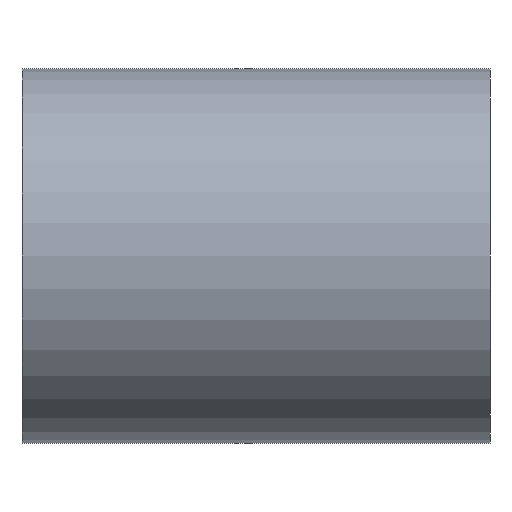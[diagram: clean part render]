
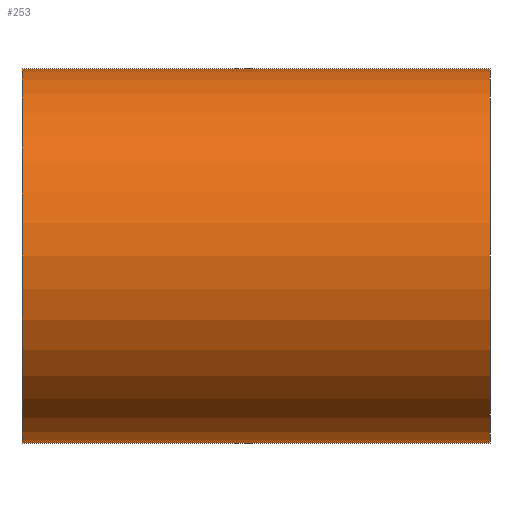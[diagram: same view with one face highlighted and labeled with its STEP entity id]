
A CAD part, front view. The second image highlights one B-rep face of the part: STEP entity #253.
In plain terms, the highlighted cylindrical face has radius 8 mm (diameter 16 mm), a partial arc.
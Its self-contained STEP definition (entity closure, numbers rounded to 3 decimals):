
#6 = VERTEX_POINT ( 'NONE', #204 ) ;
#18 = VERTEX_POINT ( 'NONE', #232 ) ;
#50 = FACE_OUTER_BOUND ( 'NONE', #561, .T. ) ;
#97 = VERTEX_POINT ( 'NONE', #376 ) ;
#113 = VECTOR ( 'NONE', #857, 1000. ) ;
#132 = CARTESIAN_POINT ( 'NONE',  ( 0., 0., 8. ) ) ;
#140 = CARTESIAN_POINT ( 'NONE',  ( -10., 0., 0. ) ) ;
#186 = CIRCLE ( 'NONE', #345, 8. ) ;
#192 = CYLINDRICAL_SURFACE ( 'NONE', #750, 8. ) ;
#194 = EDGE_CURVE ( 'NONE', #18, #888, #378, .T. ) ;
#204 = CARTESIAN_POINT ( 'NONE',  ( -10., 0., -8. ) ) ;
#232 = CARTESIAN_POINT ( 'NONE',  ( 10., 0., -8. ) ) ;
#247 = DIRECTION ( 'NONE',  ( 0., 0., 1. ) ) ;
#253 = ADVANCED_FACE ( 'NONE', ( #50 ), #192, .T. ) ;
#255 = CARTESIAN_POINT ( 'NONE',  ( 10., 0., 8. ) ) ;
#276 = EDGE_CURVE ( 'NONE', #888, #97, #752, .T. ) ;
#280 = DIRECTION ( 'NONE',  ( 0., 0., 1. ) ) ;
#315 = CARTESIAN_POINT ( 'NONE',  ( 10., 0., 0. ) ) ;
#334 = DIRECTION ( 'NONE',  ( -1., 0., 0. ) ) ;
#338 = CARTESIAN_POINT ( 'NONE',  ( 0., 0., 0. ) ) ;
#339 = ORIENTED_EDGE ( 'NONE', *, *, #194, .T. ) ;
#345 = AXIS2_PLACEMENT_3D ( 'NONE', #140, #762, #280 ) ;
#376 = CARTESIAN_POINT ( 'NONE',  ( -10., 0., 8. ) ) ;
#378 = CIRCLE ( 'NONE', #839, 8. ) ;
#416 = ORIENTED_EDGE ( 'NONE', *, *, #695, .F. ) ;
#533 = DIRECTION ( 'NONE',  ( -1., 0., 0. ) ) ;
#561 = EDGE_LOOP ( 'NONE', ( #696, #339, #671, #416 ) ) ;
#585 = CARTESIAN_POINT ( 'NONE',  ( 0., 0., -8. ) ) ;
#625 = LINE ( 'NONE', #585, #113 ) ;
#671 = ORIENTED_EDGE ( 'NONE', *, *, #276, .T. ) ;
#679 = VECTOR ( 'NONE', #818, 1000. ) ;
#695 = EDGE_CURVE ( 'NONE', #6, #97, #186, .T. ) ;
#696 = ORIENTED_EDGE ( 'NONE', *, *, #832, .F. ) ;
#750 = AXIS2_PLACEMENT_3D ( 'NONE', #338, #334, #879 ) ;
#752 = LINE ( 'NONE', #132, #679 ) ;
#762 = DIRECTION ( 'NONE',  ( -1., 0., 0. ) ) ;
#818 = DIRECTION ( 'NONE',  ( -1., 0., 0. ) ) ;
#832 = EDGE_CURVE ( 'NONE', #18, #6, #625, .T. ) ;
#839 = AXIS2_PLACEMENT_3D ( 'NONE', #315, #533, #247 ) ;
#857 = DIRECTION ( 'NONE',  ( -1., 0., 0. ) ) ;
#879 = DIRECTION ( 'NONE',  ( 0., 0., 1. ) ) ;
#888 = VERTEX_POINT ( 'NONE', #255 ) ;
